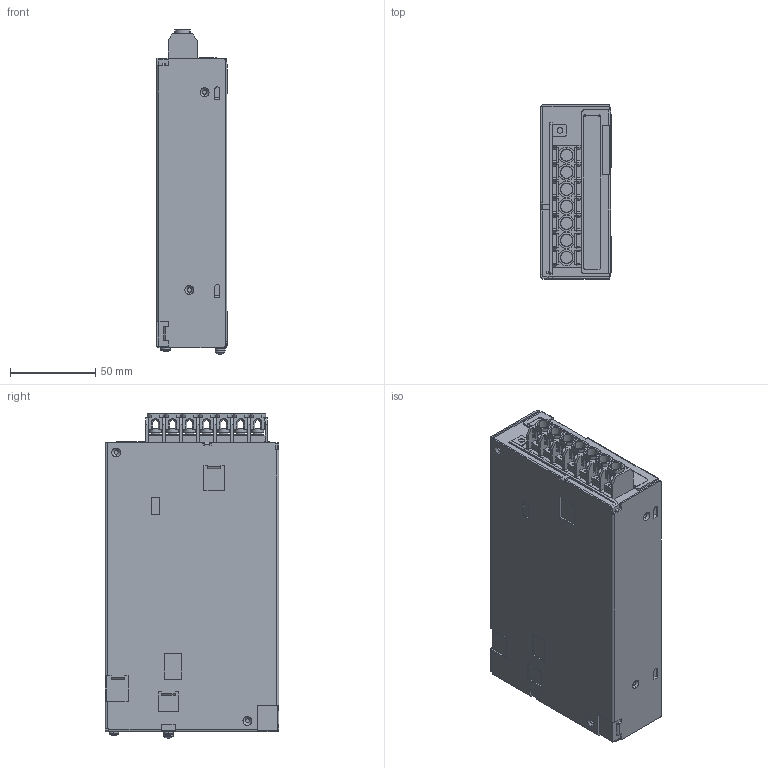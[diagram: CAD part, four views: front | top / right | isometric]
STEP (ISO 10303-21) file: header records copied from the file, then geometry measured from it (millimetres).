
FILE_DESCRIPTION (( 'STEP AP214' ), '1' );
FILE_NAME ('rws300b_outline.STEP', '2013-11-07T07:17:11', ( 'tluser' ), ( '' ), 'SwSTEP 2.0', 'SolidWorks 2013', '' );
FILE_SCHEMA (( 'AUTOMOTIVE_DESIGN' ));
Length unit declared in the file: millimetre
Products named in the file (1): rws300b_outline
Bounding box: 41.2 x 102 x 190.15 mm (x, y, z)
Volume: 714092.3 mm3; surface area: 66945.2 mm2
Topology: 1 solids, 1 shells, 1345 faces, 3513 edges, 2277 vertices
Faces by surface type: plane 777, cylinder 478, cone 71, torus 12, sphere 7
Entity records: 56578 total; most frequent: CARTESIAN_POINT 7681, DIRECTION 7315, ORIENTED_EDGE 7014, EDGE_CURVE 3507, AXIS2_PLACEMENT_3D 2533, VERTEX_POINT 2277, LINE 2249, VECTOR 2249
